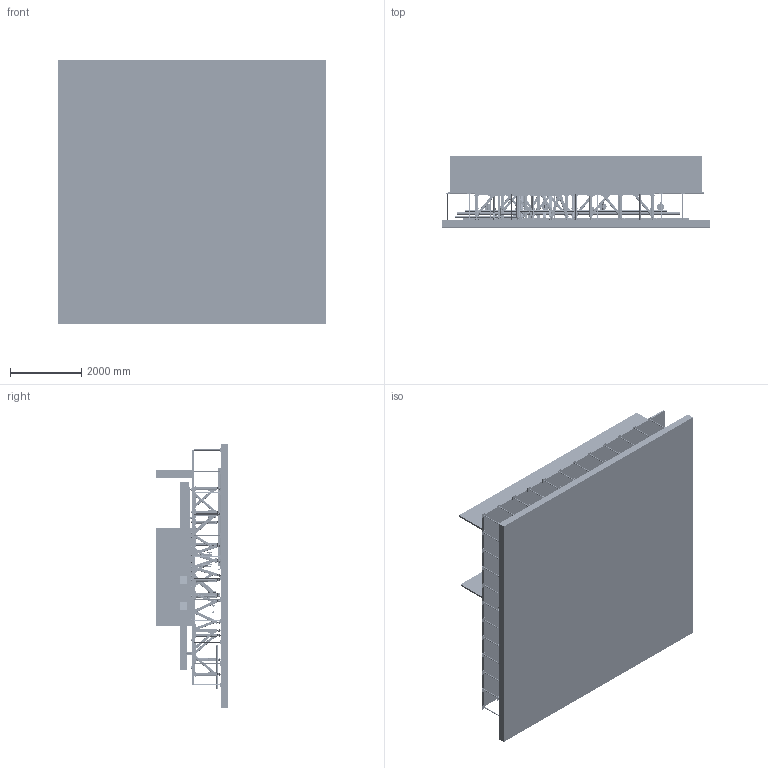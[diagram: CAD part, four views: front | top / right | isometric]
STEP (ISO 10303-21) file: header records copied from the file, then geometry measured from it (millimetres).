
FILE_DESCRIPTION (( 'STEP AP214' ), '1' );
FILE_NAME ('implantation CANON ADB.STEP', '2024-09-19T08:44:20', ( '' ), ( '' ), 'SwSTEP 2.0', 'SolidWorks 2017', '' );
FILE_SCHEMA (( 'AUTOMOTIVE_DESIGN' ));
Length unit declared in the file: millimetre
Products named in the file (44): z-cacher; v2-FAU-BBC2-07; FAU-BBC2-08_M16; v2-R_Washer_WASHER M 10; v2-FAU-BBC2-05_3<Brut d''usinage>; implantation CANON ADB; v2-FAU-BBC2-05_1<Brut d''usinage>; Tige filetée - M12_M12x200; FAU-BBC2-02_D‚faut<Brut d''usinage>; v2-FAU-BBC2-07_DWG; v2-z_Screw_H_SCREW H M10x30-26; v2-z-ecrou_m36; FAU-BBC2-05_2; BBC7301-ESQ_calcul; z_NUT_H_NUT H M 12; FAU-BBC2-06_1<Brut d''usinage>; BBC1-Hilti_Cheville segments HSA M16x137; FAU-BBC2-07; FAU-BBC2-05_1<Brut d''usinage>; z-ecrou_m36; z_Washer_WASHER M 12; FAU-BBC2-04; z_m36x140; FAU-BBC2-05_1; FP CANON ADB; FAU-BBC2-03; FAU-BBC2-05_2<Brut d''usinage>; FAU-BBC2-00_CHASSIS; M12 ASSY_160; FAU-BBC2-08; v2-FAU-BBC2-05_2; FAU-BBC2-07_DWG; tubes CANON ADB; dalle beton CANON ADB; z-M10 assy; v2-FAU-BBC2-05_2-2; R_Washer_WASHER M 10; BBC7301-BOX; FAU-BBC2-05_3<Brut d''usinage>; z_Screw_H_SCREW H M10x30-26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
Assembly tree (454 placements, depth 5):
  implantation CANON ADB
    dalle beton CANON ADB
    tubes CANON ADB
    FP CANON ADB
    FAU-BBC2-00_CHASSIS
      BBC7301-BOX
      BBC7301-ESQ_calcul
      FAU-BBC2-02_D‚faut<Brut d''usinage>
      FAU-BBC2-04
      FAU-BBC2-03
      FAU-BBC2-05_1  x11
        FAU-BBC2-05_2<Brut d''usinage>
        z-M10 assy
          z_Screw_H_SCREW H M10x30-26
          R_Washer_WASHER M 10
        FAU-BBC2-06_1<Brut d''usinage>
        FAU-BBC2-07_DWG
          z_m36x140
          z-ecrou_m36
          FAU-BBC2-07
      FAU-BBC2-05_2  x8
        FAU-BBC2-05_1<Brut d''usinage>
        z-M10 assy
          z_Screw_H_SCREW H M10x30-26
          R_Washer_WASHER M 10
        FAU-BBC2-06_1<Brut d''usinage>
        FAU-BBC2-07_DWG
          z_m36x140
          z-ecrou_m36
          FAU-BBC2-07
      FAU-BBC2-05_3
        FAU-BBC2-05_3<Brut d''usinage>
        z-M10 assy  x24
          z_Screw_H_SCREW H M10x30-26
          R_Washer_WASHER M 10
        FAU-BBC2-06_1<Brut d''usinage>  x3
        FAU-BBC2-07_DWG
          z_m36x140
          z-ecrou_m36
          FAU-BBC2-07
      M12 ASSY_160  x8
        Tige filetée - M12_M12x200
        z_Washer_WASHER M 12
        z_NUT_H_NUT H M 12
      FAU-BBC2-08_M16
        FAU-BBC2-08  x2
        BBC1-Hilti_Cheville segments HSA M16x137  x2
      FAU-BBC2-08_M16  x32
        z-cacher
        FAU-BBC2-08
        BBC1-Hilti_Cheville segments HSA M16x137
      z-M10 assy  x272
        z_Screw_H_SCREW H M10x30-26
        R_Washer_WASHER M 10
      v2-FAU-BBC2-05_2-2  x10
        v2-FAU-BBC2-05_3<Brut d''usinage>
        v2-FAU-BBC2-07_DWG
          v2-z_m36x140
          v2-z-ecrou_m36
          v2-FAU-BBC2-07
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Bounding box: 7520.88 x 2005 x 7419.52 mm (x, y, z)
Volume: 13860215279.2 mm3; surface area: 456608056.8 mm2
Topology: 2439 solids, 2543 shells, 36687 faces, 86250 edges, 55722 vertices
Faces by surface type: plane 16801, cylinder 13298, cone 6006, bspline 578, torus 4
Entity records: 368174 total; most frequent: CARTESIAN_POINT 57830, DIRECTION 56358, ORIENTED_EDGE 52023, EDGE_CURVE 26019, AXIS2_PLACEMENT_3D 20155, VERTEX_POINT 17151, VECTOR 16048, LINE 16048
